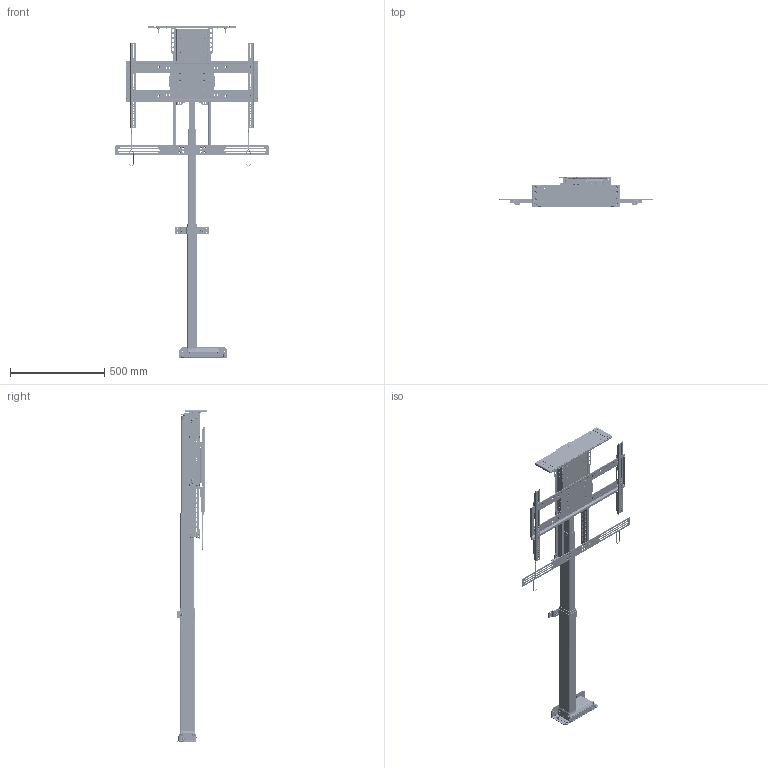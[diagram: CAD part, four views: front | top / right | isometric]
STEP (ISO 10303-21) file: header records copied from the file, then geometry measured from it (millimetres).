
FILE_DESCRIPTION(/* description */ ('STEP AP242','CAx-IF Rec.Pracs.---Representation and Presentation of Product Manufacturing Information (PMI)---4.0---2014-10-13','CAx-IF Rec.Pracs.---3D Tessellated Geometry---0.4---2014-09-14','2;1'),/* implementation_level */ '2;1');
FILE_NAME(/* name */ '63effbb6e841dc2814847ff1',/* time_stamp */ '2023-02-17T22:12:12+00:00',/* author */ (''),/* organization */ (''),/* preprocessor_version */ 'ST-DEVELOPER v18.102',/* originating_system */ ' ',/* authorisation */ ' ');
FILE_SCHEMA (('AP242_MANAGED_MODEL_BASED_3D_ENGINEERING_MIM_LF { 1 0 10303 442 1 1 4 }'));
Products named in the file (68): L-65/s; Hex socket countersunk head screw M6x1 x 12; Socket button head screw M6x1 x 12; WDS8151-215; Universal Swivel Master Assembly <1>; Socket button head screw M6x1 x 10; SW-NE-005 - SWIVEL TOP PLATE; NEX-SW-001 - DL16 SWIVEL BOTTOM SPACER; SW-NE-002 - SWIVEL BOTTOM PLATE; ULS-NX-011 - ULS ACCESSORY MOUNTING BRACKET SPACER <2>; ULS-NX-011 - UL ACCESSORY MOUNTING BRACKET SPACER; PRODUCT_NAME_1; ULS Accessories <1>; ULS-NX-010 - ULS ACCESSORY MOUNTING BRACKET W PEMS <2>; PEM CLS-M6-2  ; ULS-NX-010 - UL ACCESSORY MOUNTING BRACKET; L-85 SOUND BAR MOUNT; ULS-NX-010 - ULS ACCESSORY MOUNTING BRACKET W PEMS <1>; ULS-NX-108 - ULS SCREEN SUPPORT WELDMENT <1>; PEM CLS-M6-1  ; F-M6-3 M6 PEM NUT; ULS-NX-008 - UL SCREEN SUPPORT SHELL; ULS-NX-009 - ULS SCREEN SUPPORT TOP PLATE <1>; ULS-NX-009 - UL SCREEN SUPPORT TOP PLATE; Lid Plate Assembly W/ Lid Supports <1>; ULS-NX-012 - ULS LID SUPPORT W PEMS <1>; UL LID SUPPORT (ULS-NX-012); ULS-NX-012 - ULS LID SUPPORT W PEMS <2>; LID-FL-ULS - ULS Lid Plate Assembly <1>; ULS-NX-006 - Lid Adapter W/ Pin <1>; OLD_ULS-NX-006 - UL LID ADAPTER <1>; ULS-NX-006 - UL LID ADAPTER; FHS-273-24 PEM; FL Sub Asm <1>; 97069A106_Zinc-Plated Steel Spring Lock Washer; Plain washer large grade A M6; Hex socket countersunk head screw M6x1 x 8; ULS-NX-007 - UL LID PLATE EXTENDER; Hex nut grade C M6x1; NEX-LM-032 LID PIN GUIDE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
Assembly tree (204 placements, depth 6):
  L-65/s
    Hex socket countersunk head screw M6x1 x 12  x16
    Socket button head screw M6x1 x 12  x16
    WDS8151-215  x4
    Universal Swivel Master Assembly <1>
      Socket button head screw M6x1 x 10  x4
      SW-NE-005 - SWIVEL TOP PLATE
      NEX-SW-001 - DL16 SWIVEL BOTTOM SPACER
      SW-NE-002 - SWIVEL BOTTOM PLATE
    ULS-NX-011 - ULS ACCESSORY MOUNTING BRACKET SPACER <2>
      ULS-NX-011 - UL ACCESSORY MOUNTING BRACKET SPACER
      PRODUCT_NAME_1  x2
    ULS Accessories <1>
      Hex socket countersunk head screw M6x1 x 12  x2
      ULS-NX-010 - ULS ACCESSORY MOUNTING BRACKET W PEMS <2>
        PEM CLS-M6-2    x4
        ULS-NX-010 - UL ACCESSORY MOUNTING BRACKET
      L-85 SOUND BAR MOUNT
      ULS-NX-010 - ULS ACCESSORY MOUNTING BRACKET W PEMS <1>
        PEM CLS-M6-2    x4
        ULS-NX-010 - UL ACCESSORY MOUNTING BRACKET
    ULS-NX-108 - ULS SCREEN SUPPORT WELDMENT <1>
      PEM CLS-M6-1    x32
      F-M6-3 M6 PEM NUT
      ULS-NX-008 - UL SCREEN SUPPORT SHELL
      ULS-NX-009 - ULS SCREEN SUPPORT TOP PLATE <1>
        PEM CLS-M6-1    x4
        ULS-NX-009 - UL SCREEN SUPPORT TOP PLATE
    Lid Plate Assembly W/ Lid Supports <1>
      ULS-NX-012 - ULS LID SUPPORT W PEMS <1>
        PEM CLS-M6-2    x2
        UL LID SUPPORT (ULS-NX-012)
      ULS-NX-012 - ULS LID SUPPORT W PEMS <2>
        PEM CLS-M6-2    x2
        UL LID SUPPORT (ULS-NX-012)
      LID-FL-ULS - ULS Lid Plate Assembly <1>
        ULS-NX-006 - Lid Adapter W/ Pin <1>
          OLD_ULS-NX-006 - UL LID ADAPTER <1>
            ULS-NX-006 - UL LID ADAPTER
            FHS-273-24 PEM  x2
        FL Sub Asm <1>
          97069A106_Zinc-Plated Steel Spring Lock Washer  x4
          Plain washer large grade A M6  x4
          Hex socket countersunk head screw M6x1 x 8  x4
          ULS-NX-007 - UL LID PLATE EXTENDER  x2
          Hex nut grade C M6x1  x4
          NEX-LM-032 LID PIN GUIDE  x2
          ULS-NX-005 - UL LID PLATE W PEMS <1>
            PEM CLS-M6-2    x8
            ULS-NX-005 - UL LID PLATE
            PEM FHS-M6-15    x4
    SBP & VMB <1>
      PZ Pan head screw M5x0.80 x 25  x2
      ULS-NX-017 - UL SCREEN BACK PLATE
      Lanyard  x2
      ULS-NX-118 - UL VMB WELDMENT <2>
        Socket button head cap screw #6-32 x 0.188  x2
        VMB Washer  x4
        ULS-NX-019 - UL LEVEL ADJUSTMENT PLATE
        PEM BSO-632-10  ZI  x2
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Bounding box: 812.8 x 159.35 x 1760.38 mm (x, y, z)
Volume: 9195507.8 mm3; surface area: 2086394.5 mm2
Topology: 182 solids, 182 shells, 12429 faces, 33136 edges, 21490 vertices
Faces by surface type: plane 8632, cylinder 2170, cone 800, bspline 535, torus 246, sphere 46
Full cylindrical faces by diameter (mm): 1.778 x2, 2.032 x14, 2.642 x4, 3.175 x10, 3.505 x4, 4.6 x2, 4.917 x61, 5 x24, 5.004 x4, 5.026 x4, 5.08 x4, 5.277 x8, 5.3 x6, 5.385 x12, 5.41 x8, 5.486 x4, 5.499 x2, 5.6 x4, 5.613 x6, 5.944 x4, 5.994 x3, 6 x76, 6.095 x2, 6.35 x22, 6.4 x4, 6.528 x5, 6.6 x10, 6.604 x4, 6.655 x4, 6.934 x2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
Entity records: 110460 total; most frequent: CARTESIAN_POINT 21122, DIRECTION 17647, ORIENTED_EDGE 16850, EDGE_CURVE 8425, AXIS2_PLACEMENT_3D 6146, VERTEX_POINT 5646, LINE 5355, VECTOR 5355
